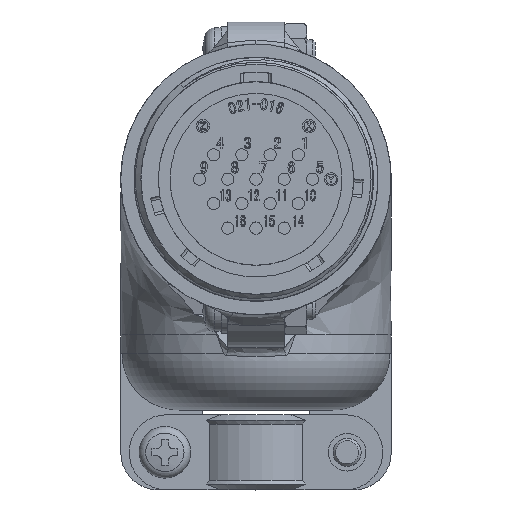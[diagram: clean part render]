
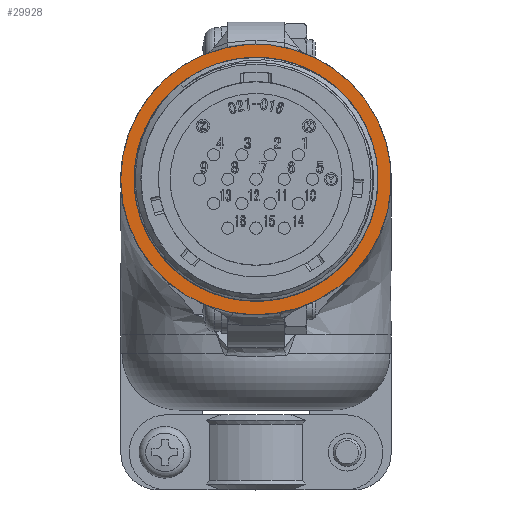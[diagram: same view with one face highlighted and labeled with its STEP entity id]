
A CAD part, top view. The second image highlights one B-rep face of the part: STEP entity #29928.
In plain terms, the highlighted planar face has unit normal (0, 0, 1).
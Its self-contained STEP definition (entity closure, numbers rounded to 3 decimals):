
#1775 = AXIS2_PLACEMENT_3D ( 'NONE', #29699, #30421, #8335 ) ;
#2914 = CIRCLE ( 'NONE', #1775, 14.4 ) ;
#3895 = VERTEX_POINT ( 'NONE', #40713 ) ;
#8335 = DIRECTION ( 'NONE',  ( -1., 0., 0. ) ) ;
#9105 = VERTEX_POINT ( 'NONE', #25034 ) ;
#11653 = AXIS2_PLACEMENT_3D ( 'NONE', #30997, #36303, #52296 ) ;
#18495 = DIRECTION ( 'NONE',  ( 0., -1., 0. ) ) ;
#19742 = CIRCLE ( 'NONE', #11653, 11.4 ) ;
#23847 = PLANE ( 'NONE',  #61292 ) ;
#24461 = EDGE_CURVE ( 'NONE', #3895, #3895, #2914, .T. ) ;
#24723 = FACE_BOUND ( 'NONE', #37482, .T. ) ;
#25034 = CARTESIAN_POINT ( 'NONE',  ( 11.4, 0., -16.2 ) ) ;
#29699 = CARTESIAN_POINT ( 'NONE',  ( 0., 0., -16.2 ) ) ;
#29928 = ADVANCED_FACE ( 'NONE', ( #35930, #24723 ), #23847, .F. ) ;
#30421 = DIRECTION ( 'NONE',  ( 0., 0., -1. ) ) ;
#30997 = CARTESIAN_POINT ( 'NONE',  ( 0., 0., -16.2 ) ) ;
#35930 = FACE_OUTER_BOUND ( 'NONE', #56404, .T. ) ;
#36303 = DIRECTION ( 'NONE',  ( 0., 0., 1. ) ) ;
#37482 = EDGE_LOOP ( 'NONE', ( #57514 ) ) ;
#40713 = CARTESIAN_POINT ( 'NONE',  ( -14.4, 0., -16.2 ) ) ;
#45825 = DIRECTION ( 'NONE',  ( 0., 0., -1. ) ) ;
#46021 = EDGE_CURVE ( 'NONE', #9105, #9105, #19742, .T. ) ;
#52296 = DIRECTION ( 'NONE',  ( 1., 0., 0. ) ) ;
#56404 = EDGE_LOOP ( 'NONE', ( #64786 ) ) ;
#57514 = ORIENTED_EDGE ( 'NONE', *, *, #46021, .F. ) ;
#61292 = AXIS2_PLACEMENT_3D ( 'NONE', #62526, #45825, #18495 ) ;
#62526 = CARTESIAN_POINT ( 'NONE',  ( 0., 0., -16.2 ) ) ;
#64786 = ORIENTED_EDGE ( 'NONE', *, *, #24461, .F. ) ;
